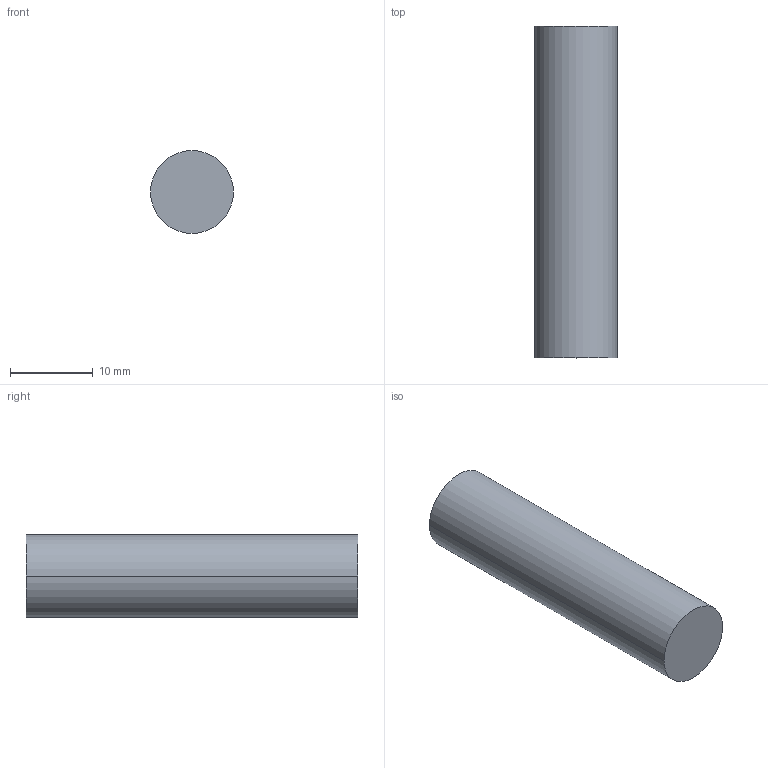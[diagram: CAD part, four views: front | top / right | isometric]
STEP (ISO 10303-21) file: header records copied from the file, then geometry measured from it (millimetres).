
FILE_DESCRIPTION((''),'2;1');
FILE_NAME('OS_FI10X40','2002-12-27T',('Lipro doo'),('Lipro d.o.o.'),'PRO/ENGINEER BY PARAMETRIC TECHNOLOGY CORPORATION, 2001150','PRO/ENGINEER BY PARAMETRIC TECHNOLOGY CORPORATION, 2001150','');
FILE_SCHEMA(('CONFIG_CONTROL_DESIGN'));
Length unit declared in the file: millimetre
Products named in the file (1): OS_FI10X40
Bounding box: 10 x 40 x 10 mm (x, y, z)
Volume: 3141.6 mm3; surface area: 1413.7 mm2
Topology: 1 solids, 1 shells, 4 faces, 6 edges, 4 vertices
Faces by surface type: plane 2, cylinder 2
Entity records: 132 total; most frequent: DIRECTION 18, CARTESIAN_POINT 14, ORIENTED_EDGE 12, AXIS2_PLACEMENT_3D 8, EDGE_CURVE 6, VERTEX_POINT 4, EDGE_LOOP 4, FACE_OUTER_BOUND 4
